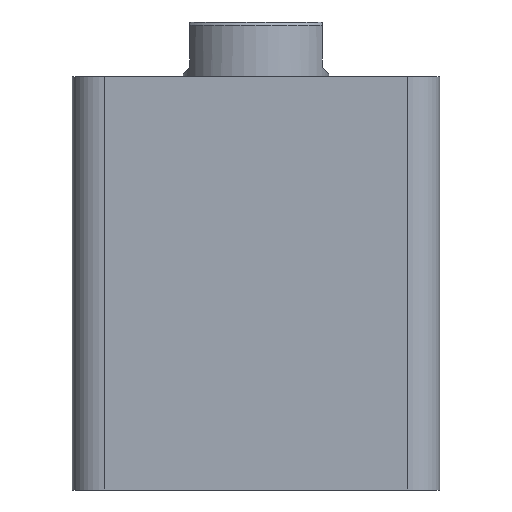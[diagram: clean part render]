
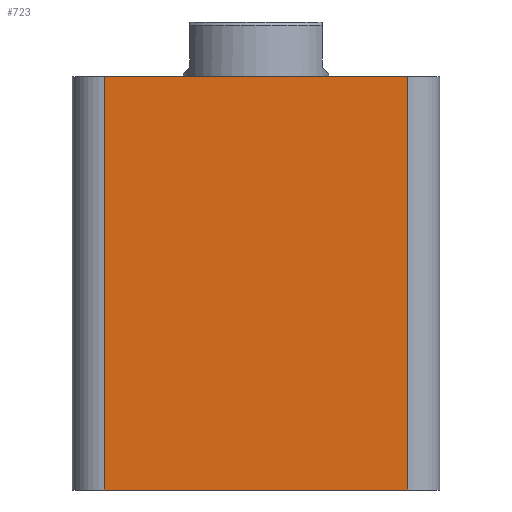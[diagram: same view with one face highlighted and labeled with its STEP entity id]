
A CAD part, front view. The second image highlights one B-rep face of the part: STEP entity #723.
In plain terms, the highlighted planar face has unit normal (0, -1, 0).
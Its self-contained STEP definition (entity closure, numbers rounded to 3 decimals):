
#1 = DIRECTION ( 'NONE',  ( 0., 0., 1. ) ) ;
#13 = PLANE ( 'NONE',  #1372 ) ;
#14 = CARTESIAN_POINT ( 'NONE',  ( -57., -57., 128. ) ) ;
#25 = DIRECTION ( 'NONE',  ( 0., 1., 0. ) ) ;
#151 = ORIENTED_EDGE ( 'NONE', *, *, #1286, .T. ) ;
#157 = VERTEX_POINT ( 'NONE', #507 ) ;
#159 = VERTEX_POINT ( 'NONE', #508 ) ;
#160 = VERTEX_POINT ( 'NONE', #510 ) ;
#193 = VERTEX_POINT ( 'NONE', #485 ) ;
#238 = ORIENTED_EDGE ( 'NONE', *, *, #1287, .T. ) ;
#239 = ORIENTED_EDGE ( 'NONE', *, *, #1288, .F. ) ;
#240 = ORIENTED_EDGE ( 'NONE', *, *, #1289, .T. ) ;
#485 = CARTESIAN_POINT ( 'NONE',  ( -47., -57., 0. ) ) ;
#507 = CARTESIAN_POINT ( 'NONE',  ( 47., -57., 0. ) ) ;
#508 = CARTESIAN_POINT ( 'NONE',  ( -47., -57., 128. ) ) ;
#510 = CARTESIAN_POINT ( 'NONE',  ( 47., -57., 128. ) ) ;
#530 = EDGE_LOOP ( 'NONE', ( #151, #238, #239, #240 ) ) ;
#723 = ADVANCED_FACE ( 'NONE', ( #2112 ), #13, .F. ) ;
#1075 = CARTESIAN_POINT ( 'NONE',  ( 47., -57., 128. ) ) ;
#1286 = EDGE_CURVE ( 'NONE', #193, #157, #1695, .T. ) ;
#1287 = EDGE_CURVE ( 'NONE', #157, #160, #1689, .T. ) ;
#1288 = EDGE_CURVE ( 'NONE', #159, #160, #1699, .T. ) ;
#1289 = EDGE_CURVE ( 'NONE', #159, #193, #1701, .T. ) ;
#1372 = AXIS2_PLACEMENT_3D ( 'NONE', #14, #25, #1 ) ;
#1455 = CARTESIAN_POINT ( 'NONE',  ( -57., -57., 0. ) ) ;
#1456 = DIRECTION ( 'NONE',  ( 1., 0., 0. ) ) ;
#1457 = DIRECTION ( 'NONE',  ( 0., 0., 1. ) ) ;
#1458 = CARTESIAN_POINT ( 'NONE',  ( -57., -57., 128. ) ) ;
#1459 = DIRECTION ( 'NONE',  ( 1., 0., 0. ) ) ;
#1460 = CARTESIAN_POINT ( 'NONE',  ( -47., -57., 128. ) ) ;
#1461 = DIRECTION ( 'NONE',  ( 0., 0., -1. ) ) ;
#1689 = LINE ( 'NONE', #1075, #1700 ) ;
#1695 = LINE ( 'NONE', #1455, #1698 ) ;
#1698 = VECTOR ( 'NONE', #1456, 1000. ) ;
#1699 = LINE ( 'NONE', #1458, #1702 ) ;
#1700 = VECTOR ( 'NONE', #1457, 1000. ) ;
#1701 = LINE ( 'NONE', #1460, #1704 ) ;
#1702 = VECTOR ( 'NONE', #1459, 1000. ) ;
#1704 = VECTOR ( 'NONE', #1461, 1000. ) ;
#2112 = FACE_OUTER_BOUND ( 'NONE', #530, .T. ) ;
